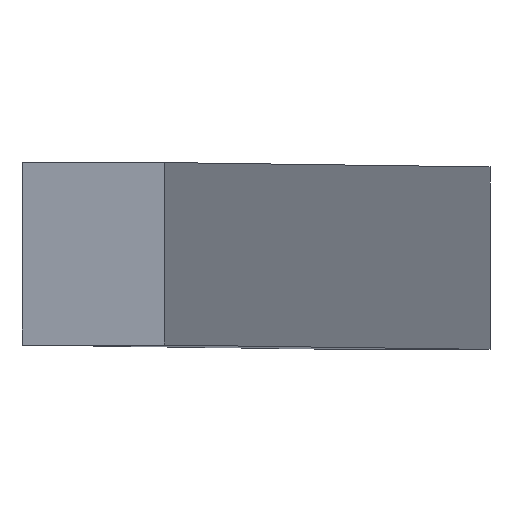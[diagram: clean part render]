
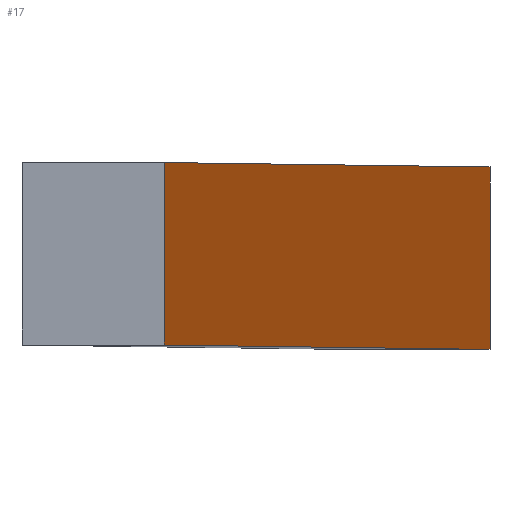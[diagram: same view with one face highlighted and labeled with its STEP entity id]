
A CAD part, top view. The second image highlights one B-rep face of the part: STEP entity #17.
In plain terms, the highlighted planar face has unit normal (0.992, 0, 0.128).
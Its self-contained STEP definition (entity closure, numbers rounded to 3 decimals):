
#17 = ADVANCED_FACE('',(#18),#32,.F.);
#18 = FACE_BOUND('',#19,.F.);
#19 = EDGE_LOOP('',(#20,#55,#83,#111));
#20 = ORIENTED_EDGE('',*,*,#21,.F.);
#21 = EDGE_CURVE('',#22,#24,#26,.T.);
#22 = VERTEX_POINT('',#23);
#23 = CARTESIAN_POINT('',(-139.09,-14.,-28.594));
#24 = VERTEX_POINT('',#25);
#25 = CARTESIAN_POINT('',(-89.09,-14.,-416.594));
#26 = SURFACE_CURVE('',#27,(#31,#43),.PCURVE_S1.);
#27 = LINE('',#28,#29);
#28 = CARTESIAN_POINT('',(-139.09,-14.,-28.594));
#29 = VECTOR('',#30,1.);
#30 = DIRECTION('',(0.128,0.,-0.992));
#31 = PCURVE('',#32,#37);
#32 = PLANE('',#33);
#33 = AXIS2_PLACEMENT_3D('',#34,#35,#36);
#34 = CARTESIAN_POINT('',(-139.09,-14.,-28.594));
#35 = DIRECTION('',(-0.992,0.,-0.128));
#36 = DIRECTION('',(0.128,0.,-0.992));
#37 = DEFINITIONAL_REPRESENTATION('',(#38),#42);
#38 = LINE('',#39,#40);
#39 = CARTESIAN_POINT('',(0.,0.));
#40 = VECTOR('',#41,1.);
#41 = DIRECTION('',(1.,0.));
#42 = ( GEOMETRIC_REPRESENTATION_CONTEXT(2) 
PARAMETRIC_REPRESENTATION_CONTEXT() REPRESENTATION_CONTEXT('2D SPACE',''
  ) );
#43 = PCURVE('',#44,#49);
#44 = PLANE('',#45);
#45 = AXIS2_PLACEMENT_3D('',#46,#47,#48);
#46 = CARTESIAN_POINT('',(-139.09,-14.,-28.594));
#47 = DIRECTION('',(0.,1.,0.));
#48 = DIRECTION('',(0.128,0.,-0.992));
#49 = DEFINITIONAL_REPRESENTATION('',(#50),#54);
#50 = LINE('',#51,#52);
#51 = CARTESIAN_POINT('',(0.,0.));
#52 = VECTOR('',#53,1.);
#53 = DIRECTION('',(1.,0.));
#54 = ( GEOMETRIC_REPRESENTATION_CONTEXT(2) 
PARAMETRIC_REPRESENTATION_CONTEXT() REPRESENTATION_CONTEXT('2D SPACE',''
  ) );
#55 = ORIENTED_EDGE('',*,*,#56,.T.);
#56 = EDGE_CURVE('',#22,#57,#59,.T.);
#57 = VERTEX_POINT('',#58);
#58 = CARTESIAN_POINT('',(-139.09,14.,-28.594));
#59 = SURFACE_CURVE('',#60,(#64,#71),.PCURVE_S1.);
#60 = LINE('',#61,#62);
#61 = CARTESIAN_POINT('',(-139.09,-14.,-28.594));
#62 = VECTOR('',#63,1.);
#63 = DIRECTION('',(0.,1.,0.));
#64 = PCURVE('',#32,#65);
#65 = DEFINITIONAL_REPRESENTATION('',(#66),#70);
#66 = LINE('',#67,#68);
#67 = CARTESIAN_POINT('',(0.,0.));
#68 = VECTOR('',#69,1.);
#69 = DIRECTION('',(0.,-1.));
#70 = ( GEOMETRIC_REPRESENTATION_CONTEXT(2) 
PARAMETRIC_REPRESENTATION_CONTEXT() REPRESENTATION_CONTEXT('2D SPACE',''
  ) );
#71 = PCURVE('',#72,#77);
#72 = PLANE('',#73);
#73 = AXIS2_PLACEMENT_3D('',#74,#75,#76);
#74 = CARTESIAN_POINT('',(-139.09,-14.,-28.594));
#75 = DIRECTION('',(0.128,0.,-0.992));
#76 = DIRECTION('',(-0.992,0.,-0.128));
#77 = DEFINITIONAL_REPRESENTATION('',(#78),#82);
#78 = LINE('',#79,#80);
#79 = CARTESIAN_POINT('',(0.,0.));
#80 = VECTOR('',#81,1.);
#81 = DIRECTION('',(0.,1.));
#82 = ( GEOMETRIC_REPRESENTATION_CONTEXT(2) 
PARAMETRIC_REPRESENTATION_CONTEXT() REPRESENTATION_CONTEXT('2D SPACE',''
  ) );
#83 = ORIENTED_EDGE('',*,*,#84,.T.);
#84 = EDGE_CURVE('',#57,#85,#87,.T.);
#85 = VERTEX_POINT('',#86);
#86 = CARTESIAN_POINT('',(-89.09,14.,-416.594));
#87 = SURFACE_CURVE('',#88,(#92,#99),.PCURVE_S1.);
#88 = LINE('',#89,#90);
#89 = CARTESIAN_POINT('',(-139.09,14.,-28.594));
#90 = VECTOR('',#91,1.);
#91 = DIRECTION('',(0.128,0.,-0.992));
#92 = PCURVE('',#32,#93);
#93 = DEFINITIONAL_REPRESENTATION('',(#94),#98);
#94 = LINE('',#95,#96);
#95 = CARTESIAN_POINT('',(0.,-28.));
#96 = VECTOR('',#97,1.);
#97 = DIRECTION('',(1.,0.));
#98 = ( GEOMETRIC_REPRESENTATION_CONTEXT(2) 
PARAMETRIC_REPRESENTATION_CONTEXT() REPRESENTATION_CONTEXT('2D SPACE',''
  ) );
#99 = PCURVE('',#100,#105);
#100 = PLANE('',#101);
#101 = AXIS2_PLACEMENT_3D('',#102,#103,#104);
#102 = CARTESIAN_POINT('',(-139.09,14.,-28.594));
#103 = DIRECTION('',(0.,1.,0.));
#104 = DIRECTION('',(0.128,0.,-0.992));
#105 = DEFINITIONAL_REPRESENTATION('',(#106),#110);
#106 = LINE('',#107,#108);
#107 = CARTESIAN_POINT('',(0.,0.));
#108 = VECTOR('',#109,1.);
#109 = DIRECTION('',(1.,0.));
#110 = ( GEOMETRIC_REPRESENTATION_CONTEXT(2) 
PARAMETRIC_REPRESENTATION_CONTEXT() REPRESENTATION_CONTEXT('2D SPACE',''
  ) );
#111 = ORIENTED_EDGE('',*,*,#112,.F.);
#112 = EDGE_CURVE('',#24,#85,#113,.T.);
#113 = SURFACE_CURVE('',#114,(#118,#125),.PCURVE_S1.);
#114 = LINE('',#115,#116);
#115 = CARTESIAN_POINT('',(-89.09,-14.,-416.594));
#116 = VECTOR('',#117,1.);
#117 = DIRECTION('',(0.,1.,0.));
#118 = PCURVE('',#32,#119);
#119 = DEFINITIONAL_REPRESENTATION('',(#120),#124);
#120 = LINE('',#121,#122);
#121 = CARTESIAN_POINT('',(391.208,0.));
#122 = VECTOR('',#123,1.);
#123 = DIRECTION('',(0.,-1.));
#124 = ( GEOMETRIC_REPRESENTATION_CONTEXT(2) 
PARAMETRIC_REPRESENTATION_CONTEXT() REPRESENTATION_CONTEXT('2D SPACE',''
  ) );
#125 = PCURVE('',#126,#131);
#126 = PLANE('',#127);
#127 = AXIS2_PLACEMENT_3D('',#128,#129,#130);
#128 = CARTESIAN_POINT('',(-89.09,-14.,-416.594));
#129 = DIRECTION('',(0.128,0.,-0.992));
#130 = DIRECTION('',(-0.992,0.,-0.128));
#131 = DEFINITIONAL_REPRESENTATION('',(#132),#136);
#132 = LINE('',#133,#134);
#133 = CARTESIAN_POINT('',(0.,0.));
#134 = VECTOR('',#135,1.);
#135 = DIRECTION('',(0.,1.));
#136 = ( GEOMETRIC_REPRESENTATION_CONTEXT(2) 
PARAMETRIC_REPRESENTATION_CONTEXT() REPRESENTATION_CONTEXT('2D SPACE',''
  ) );
